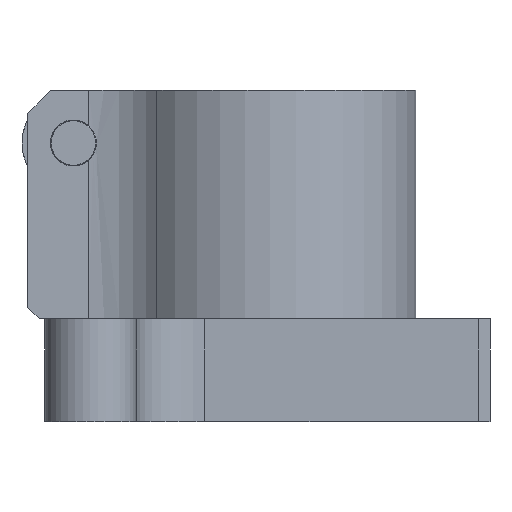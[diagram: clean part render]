
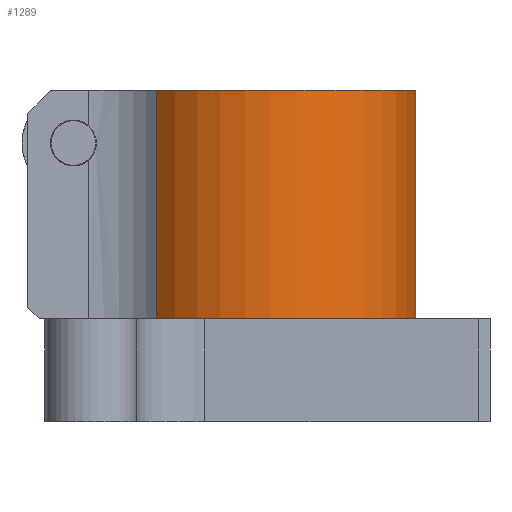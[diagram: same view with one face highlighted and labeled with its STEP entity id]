
A CAD part, left-side view. The second image highlights one B-rep face of the part: STEP entity #1289.
In plain terms, the highlighted cylindrical face has radius 6.5 mm (diameter 13 mm), a partial arc.
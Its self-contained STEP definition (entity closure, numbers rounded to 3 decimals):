
#36=CYLINDRICAL_SURFACE('',#1411,6.5);
#104=FACE_OUTER_BOUND('',#173,.T.);
#173=EDGE_LOOP('',(#1043,#1044,#1045,#1046));
#204=CIRCLE('',#1363,6.5);
#219=CIRCLE('',#1392,6.5);
#326=LINE('',#2079,#449);
#337=LINE('',#2115,#460);
#449=VECTOR('',#1669,10.);
#460=VECTOR('',#1708,10.);
#535=VERTEX_POINT('',#1945);
#536=VERTEX_POINT('',#1947);
#567=VERTEX_POINT('',#2050);
#568=VERTEX_POINT('',#2052);
#669=EDGE_CURVE('',#535,#536,#204,.T.);
#719=EDGE_CURVE('',#567,#568,#219,.T.);
#726=EDGE_CURVE('',#536,#567,#326,.T.);
#741=EDGE_CURVE('',#535,#568,#337,.T.);
#1043=ORIENTED_EDGE('',*,*,#669,.F.);
#1044=ORIENTED_EDGE('',*,*,#741,.T.);
#1045=ORIENTED_EDGE('',*,*,#719,.F.);
#1046=ORIENTED_EDGE('',*,*,#726,.F.);
#1289=ADVANCED_FACE('',(#104),#36,.T.);
#1363=AXIS2_PLACEMENT_3D('',#1948,#1565,#1566);
#1392=AXIS2_PLACEMENT_3D('',#2053,#1657,#1658);
#1411=AXIS2_PLACEMENT_3D('',#2116,#1709,#1710);
#1565=DIRECTION('center_axis',(0.,0.,-1.));
#1566=DIRECTION('ref_axis',(0.667,-0.745,0.));
#1657=DIRECTION('center_axis',(0.,0.,1.));
#1658=DIRECTION('ref_axis',(0.667,-0.745,0.));
#1669=DIRECTION('',(0.,0.,1.));
#1708=DIRECTION('',(0.,0.,1.));
#1709=DIRECTION('center_axis',(0.,0.,1.));
#1710=DIRECTION('ref_axis',(0.667,-0.745,0.));
#1945=CARTESIAN_POINT('',(4.333,4.845,4.5));
#1947=CARTESIAN_POINT('',(-4.333,4.845,4.5));
#1948=CARTESIAN_POINT('Origin',(0.,0.,4.5));
#2050=CARTESIAN_POINT('',(-4.333,4.845,14.5));
#2052=CARTESIAN_POINT('',(4.333,4.845,14.5));
#2053=CARTESIAN_POINT('Origin',(0.,0.,14.5));
#2079=CARTESIAN_POINT('',(-4.333,4.845,4.5));
#2115=CARTESIAN_POINT('',(4.333,4.845,4.5));
#2116=CARTESIAN_POINT('Origin',(0.,0.,4.5));
